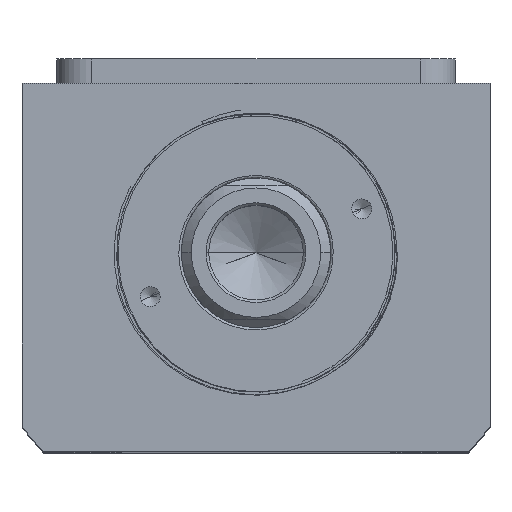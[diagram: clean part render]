
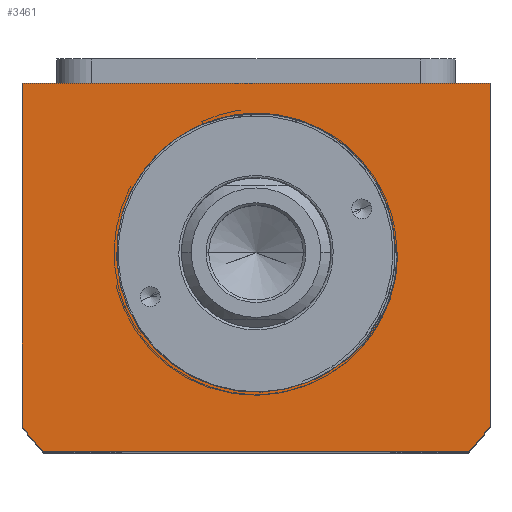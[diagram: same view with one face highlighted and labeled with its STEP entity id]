
A CAD part, top view. The second image highlights one B-rep face of the part: STEP entity #3461.
In plain terms, the highlighted planar face has unit normal (0, 0, 1).
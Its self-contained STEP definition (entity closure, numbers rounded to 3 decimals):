
#134 = CARTESIAN_POINT ( 'NONE',  ( 47., 34., 67.5 ) ) ;
#169 = EDGE_CURVE ( 'NONE', #9819, #3831, #10135, .T. ) ;
#181 = ORIENTED_EDGE ( 'NONE', *, *, #10994, .T. ) ;
#292 = LINE ( 'NONE', #2544, #3535 ) ;
#570 = DIRECTION ( 'NONE',  ( 0., 0., -1. ) ) ;
#680 = CARTESIAN_POINT ( 'NONE',  ( 28.495, 0., 67.5 ) ) ;
#911 = CIRCLE ( 'NONE', #5239, 58.5 ) ;
#1160 = VERTEX_POINT ( 'NONE', #3703 ) ;
#1248 = CARTESIAN_POINT ( 'NONE',  ( 42.688, -40., 67.5 ) ) ;
#1516 = CARTESIAN_POINT ( 'NONE',  ( 0., 0., 67.5 ) ) ;
#1528 = DIRECTION ( 'NONE',  ( 0., 0., 1. ) ) ;
#1654 = CARTESIAN_POINT ( 'NONE',  ( 28.233, -3.538, 67.5 ) ) ;
#1764 = CARTESIAN_POINT ( 'NONE',  ( 28.323, -2.832, 67.5 ) ) ;
#1940 = EDGE_LOOP ( 'NONE', ( #6678, #3821, #7244, #10369, #10687, #3348 ) ) ;
#2191 = DIRECTION ( 'NONE',  ( 1., 0., 0. ) ) ;
#2395 = CARTESIAN_POINT ( 'NONE',  ( -47., 34., 67.5 ) ) ;
#2418 = VECTOR ( 'NONE', #2191, 1000. ) ;
#2529 = CARTESIAN_POINT ( 'NONE',  ( 28.485, -0.71, 67.5 ) ) ;
#2544 = CARTESIAN_POINT ( 'NONE',  ( -47., -34.832, 67.5 ) ) ;
#2639 = CARTESIAN_POINT ( 'NONE',  ( 28.449, -1.419, 67.5 ) ) ;
#3208 = DIRECTION ( 'NONE',  ( 0., 0., 1. ) ) ;
#3348 = ORIENTED_EDGE ( 'NONE', *, *, #10421, .T. ) ;
#3384 = CARTESIAN_POINT ( 'NONE',  ( 24.898, -13.504, 67.5 ) ) ;
#3427 = CARTESIAN_POINT ( 'NONE',  ( 18.667, -21.077, 67.5 ) ) ;
#3461 = ADVANCED_FACE ( 'NONE', ( #5546, #9461 ), #11243, .T. ) ;
#3464 = CARTESIAN_POINT ( 'NONE',  ( 20.224, -19.631, 67.5 ) ) ;
#3501 = CARTESIAN_POINT ( 'NONE',  ( 11.542, -25.544, 67.5 ) ) ;
#3535 = VECTOR ( 'NONE', #9653, 1000. ) ;
#3539 = CARTESIAN_POINT ( 'NONE',  ( 27.555, -6.99, 67.5 ) ) ;
#3703 = CARTESIAN_POINT ( 'NONE',  ( 10.232, -26.064, 67.5 ) ) ;
#3723 = LINE ( 'NONE', #2395, #10470 ) ;
#3821 = ORIENTED_EDGE ( 'NONE', *, *, #4775, .T. ) ;
#3831 = VERTEX_POINT ( 'NONE', #7437 ) ;
#3922 = VERTEX_POINT ( 'NONE', #8297 ) ;
#4129 = AXIS2_PLACEMENT_3D ( 'NONE', #5918, #3208, #10389 ) ;
#4598 = B_SPLINE_CURVE_WITH_KNOTS ( 'NONE', 3,
 ( #5375, #2529, #2639, #1764, #1654, #7966, #3539, #6223, #10713, #3384, #6147, #9825, #8860, #3464, #5213, #3427, #10597, #8080, #7930, #8824, #9717, #3501, #9675, #8901 ),
 .UNSPECIFIED., .F., .F.,
 ( 4, 2, 2, 2, 2, 2, 2, 2, 2, 2, 2, 4 ),
 ( 0., 0.002, 0.004, 0.009, 0.013, 0.017, 0.021, 0.023, 0.026, 0.03, 0.032, 0.034 ),
 .UNSPECIFIED. ) ;
#4775 = EDGE_CURVE ( 'NONE', #3922, #11561, #292, .T. ) ;
#4925 = DIRECTION ( 'NONE',  ( -1., 0., 0. ) ) ;
#5213 = CARTESIAN_POINT ( 'NONE',  ( 19.714, -20.129, 67.5 ) ) ;
#5239 = AXIS2_PLACEMENT_3D ( 'NONE', #9182, #9994, #5585 ) ;
#5375 = CARTESIAN_POINT ( 'NONE',  ( 28.495, 0., 67.5 ) ) ;
#5546 = FACE_BOUND ( 'NONE', #7136, .T. ) ;
#5585 = DIRECTION ( 'NONE',  ( 1., 0., 0. ) ) ;
#5665 = DIRECTION ( 'NONE',  ( 0., 1., 0. ) ) ;
#5701 = ORIENTED_EDGE ( 'NONE', *, *, #6309, .F. ) ;
#5829 = AXIS2_PLACEMENT_3D ( 'NONE', #1516, #570, #8689 ) ;
#5918 = CARTESIAN_POINT ( 'NONE',  ( 0., 0., 67.5 ) ) ;
#6147 = CARTESIAN_POINT ( 'NONE',  ( 24.178, -14.712, 67.5 ) ) ;
#6223 = CARTESIAN_POINT ( 'NONE',  ( 26.694, -9.657, 67.5 ) ) ;
#6309 = EDGE_CURVE ( 'NONE', #9162, #7736, #6736, .T. ) ;
#6414 = CARTESIAN_POINT ( 'NONE',  ( 47., -34.832, 67.5 ) ) ;
#6678 = ORIENTED_EDGE ( 'NONE', *, *, #6840, .T. ) ;
#6730 = VECTOR ( 'NONE', #5665, 1000. ) ;
#6736 = LINE ( 'NONE', #10353, #7421 ) ;
#6800 = EDGE_CURVE ( 'NONE', #1160, #7736, #7005, .T. ) ;
#6840 = EDGE_CURVE ( 'NONE', #10630, #3922, #3723, .T. ) ;
#6928 = CARTESIAN_POINT ( 'NONE',  ( 0., 0., 67.5 ) ) ;
#7005 = CIRCLE ( 'NONE', #5829, 28. ) ;
#7136 = EDGE_LOOP ( 'NONE', ( #5701, #181, #9657 ) ) ;
#7244 = ORIENTED_EDGE ( 'NONE', *, *, #10308, .T. ) ;
#7421 = VECTOR ( 'NONE', #4925, 1000. ) ;
#7437 = CARTESIAN_POINT ( 'NONE',  ( 42.688, -40., 67.5 ) ) ;
#7658 = AXIS2_PLACEMENT_3D ( 'NONE', #6928, #1528, #7843 ) ;
#7736 = VERTEX_POINT ( 'NONE', #8507 ) ;
#7843 = DIRECTION ( 'NONE',  ( 1., 0., 0. ) ) ;
#7849 = CARTESIAN_POINT ( 'NONE',  ( -47., -34.832, 67.5 ) ) ;
#7865 = EDGE_CURVE ( 'NONE', #3831, #11049, #8942, .T. ) ;
#7915 = DIRECTION ( 'NONE',  ( -1., 0., 0. ) ) ;
#7930 = CARTESIAN_POINT ( 'NONE',  ( 15.3, -23.593, 67.5 ) ) ;
#7966 = CARTESIAN_POINT ( 'NONE',  ( 27.887, -5.628, 67.5 ) ) ;
#8080 = CARTESIAN_POINT ( 'NONE',  ( 16.467, -22.819, 67.5 ) ) ;
#8297 = CARTESIAN_POINT ( 'NONE',  ( -47., 34., 67.5 ) ) ;
#8507 = CARTESIAN_POINT ( 'NONE',  ( 28., 0., 67.5 ) ) ;
#8689 = DIRECTION ( 'NONE',  ( 1., 0., 0. ) ) ;
#8824 = CARTESIAN_POINT ( 'NONE',  ( 13.459, -24.624, 67.5 ) ) ;
#8860 = CARTESIAN_POINT ( 'NONE',  ( 21.684, -18.094, 67.5 ) ) ;
#8901 = CARTESIAN_POINT ( 'NONE',  ( 10.232, -26.064, 67.5 ) ) ;
#8942 = CIRCLE ( 'NONE', #7658, 58.5 ) ;
#9162 = VERTEX_POINT ( 'NONE', #680 ) ;
#9182 = CARTESIAN_POINT ( 'NONE',  ( 0., 0., 67.5 ) ) ;
#9461 = FACE_OUTER_BOUND ( 'NONE', #1940, .T. ) ;
#9484 = CARTESIAN_POINT ( 'NONE',  ( 47., 34., 67.5 ) ) ;
#9653 = DIRECTION ( 'NONE',  ( 0., -1., 0. ) ) ;
#9657 = ORIENTED_EDGE ( 'NONE', *, *, #6800, .T. ) ;
#9675 = CARTESIAN_POINT ( 'NONE',  ( 10.89, -25.816, 67.5 ) ) ;
#9717 = CARTESIAN_POINT ( 'NONE',  ( 12.831, -24.945, 67.5 ) ) ;
#9819 = VERTEX_POINT ( 'NONE', #11242 ) ;
#9825 = CARTESIAN_POINT ( 'NONE',  ( 22.571, -17.007, 67.5 ) ) ;
#9994 = DIRECTION ( 'NONE',  ( 0., 0., 1. ) ) ;
#10135 = LINE ( 'NONE', #1248, #2418 ) ;
#10308 = EDGE_CURVE ( 'NONE', #11561, #9819, #911, .T. ) ;
#10353 = CARTESIAN_POINT ( 'NONE',  ( 0., 0., 67.5 ) ) ;
#10369 = ORIENTED_EDGE ( 'NONE', *, *, #169, .T. ) ;
#10389 = DIRECTION ( 'NONE',  ( 1., 0., 0. ) ) ;
#10421 = EDGE_CURVE ( 'NONE', #11049, #10630, #10740, .T. ) ;
#10470 = VECTOR ( 'NONE', #7915, 1000. ) ;
#10597 = CARTESIAN_POINT ( 'NONE',  ( 18.129, -21.529, 67.5 ) ) ;
#10630 = VERTEX_POINT ( 'NONE', #9484 ) ;
#10687 = ORIENTED_EDGE ( 'NONE', *, *, #7865, .T. ) ;
#10713 = CARTESIAN_POINT ( 'NONE',  ( 26.163, -10.961, 67.5 ) ) ;
#10740 = LINE ( 'NONE', #134, #6730 ) ;
#10994 = EDGE_CURVE ( 'NONE', #9162, #1160, #4598, .T. ) ;
#11049 = VERTEX_POINT ( 'NONE', #6414 ) ;
#11242 = CARTESIAN_POINT ( 'NONE',  ( -42.688, -40., 67.5 ) ) ;
#11243 = PLANE ( 'NONE',  #4129 ) ;
#11561 = VERTEX_POINT ( 'NONE', #7849 ) ;
